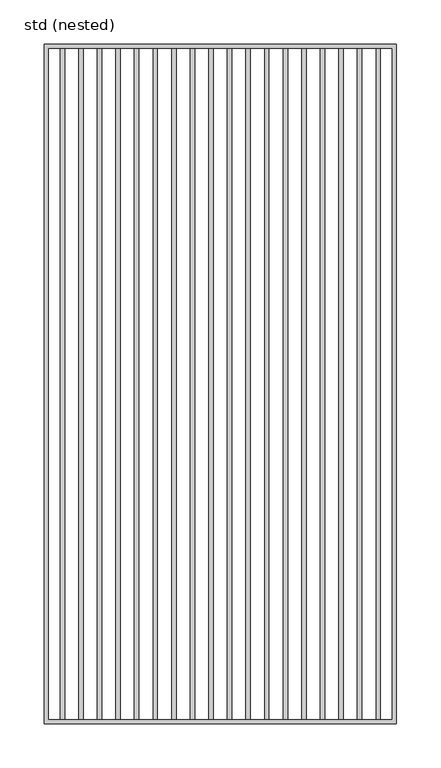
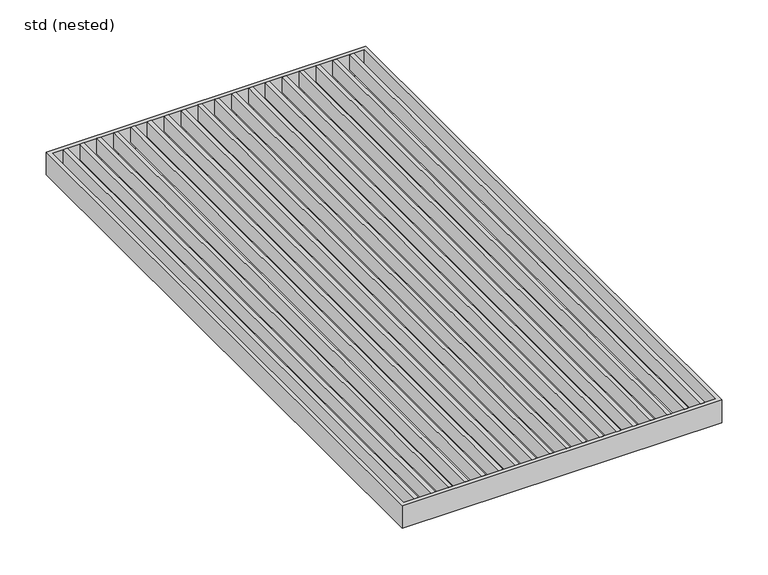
"""IFC4 building model written with IfcOpenShell, lengths in millimetres: sanitary terminal geometry, ZZZ_do not use_PF_ST_UN_grating for box channel_ACO : std (nested)."""

import ifcopenshell
import ifcopenshell.guid

model = None  # the IFC model being written
_history = None  # IfcOwnerHistory: only IFC2X3 demands one
_inside = {}  # id of a spatial element -> (the spatial element, [elements in it])
_under = {}  # id of a project, library or spatial element -> (it, [spatial elements below it])
_declared = {}  # id of a project -> (the project, [libraries it declares])
_typed = {}  # id of a type object -> (the type object, [elements of that type])
_made_of = {}  # id of a material, layer set ... -> (it, [elements and type objects made of it])


def new_model(schema):
    """Start an empty IFC model of exactly this schema.

    Asked for "IFC4X3", IfcOpenShell would pick the latest addendum, in which some entities
    have other attributes; the version numbers below select the first issue.
    IFC2X3 requires an IfcOwnerHistory on every rooted entity: one is made here for all.
    """
    global model, _history
    if schema == "IFC4X3":
        model = ifcopenshell.file(schema_version=(4, 3, 0, 0))
    else:
        model = ifcopenshell.file(schema=schema)
    _inside.clear()
    _under.clear()
    _declared.clear()
    _typed.clear()
    _made_of.clear()
    _history = None
    if model.schema == "IFC2X3":
        org = make("IfcOrganization", Name="unknown")
        user = make(
            "IfcPersonAndOrganization",
            ThePerson=make("IfcPerson", FamilyName="unknown"),
            TheOrganization=org,
        )
        app = make(
            "IfcApplication",
            ApplicationDeveloper=org,
            Version="unknown",
            ApplicationFullName="unknown",
            ApplicationIdentifier="unknown",
        )
        _history = make(
            "IfcOwnerHistory",
            OwningUser=user,
            OwningApplication=app,
            ChangeAction="ADDED",
            CreationDate=0,
        )
    return model


def make(cls, **values):
    """One entity of the class cls with the attributes given. An attribute that is None is left unset."""
    return model.create_entity(
        cls, **{name: value for name, value in values.items() if value is not None}
    )


def rooted(cls, **values):
    """An entity with a GlobalId (a new one), such as an element, a storey or a relation."""
    return make(cls, GlobalId=ifcopenshell.guid.new(), OwnerHistory=_history, **values)


def si_unit(unit_type, name, prefix=None):
    """IfcSIUnit, for example si_unit("LENGTHUNIT", "METRE", prefix="MILLI")."""
    return make("IfcSIUnit", UnitType=unit_type, Prefix=prefix, Name=name)


def assignment(units):
    """IfcUnitAssignment: the units of a project."""
    return None if units is None else make("IfcUnitAssignment", Units=units)


def point(xyz):
    """IfcCartesianPoint."""
    return None if xyz is None else make("IfcCartesianPoint", Coordinates=xyz)


def direction(xyz):
    """IfcDirection."""
    return None if xyz is None else make("IfcDirection", DirectionRatios=xyz)


def frame(location, z_axis=None, x_axis=None):
    """IfcAxis2Placement3D, a coordinate frame: its origin and axes. An axis left out is left unset."""
    return make(
        "IfcAxis2Placement3D",
        Location=point(location),
        Axis=direction(z_axis),
        RefDirection=direction(x_axis),
    )


def origin():
    """The frame at (0, 0, 0) with its axes left unset."""
    return frame((0.0, 0.0, 0.0))


def place(relative_to, where):
    """IfcLocalPlacement: puts the frame where relative to a parent placement (None: the world)."""
    return make(
        "IfcLocalPlacement", PlacementRelTo=relative_to, RelativePlacement=where
    )


def context(
    kind, dimensions, precision=None, world=None, true_north=None, identifier=None
):
    """IfcGeometricRepresentationContext, for example the 3D "Model" context."""
    return make(
        "IfcGeometricRepresentationContext",
        ContextIdentifier=identifier,
        ContextType=kind,
        CoordinateSpaceDimension=dimensions,
        Precision=precision,
        WorldCoordinateSystem=world,
        TrueNorth=true_north,
    )


def project(units=None, contexts=None):
    """IfcProject with its units and contexts."""
    return rooted(
        "IfcProject",
        Name="project",
        RepresentationContexts=contexts,
        UnitsInContext=assignment(units),
    )


def spatial(cls, under=None, at=None, **own):
    """A site, building, storey or space (cls), placed at a placement, below another one or the project."""
    s = rooted(cls, ObjectPlacement=at, **own)
    if under is not None:
        _under.setdefault(under.id(), (under, []))[1].append(s)
    return s


def polyline(points):
    """IfcPolyline through the points."""
    return make("IfcPolyline", Points=[point(p) for p in points])


def outline(outer, holes=None, kind="AREA"):
    """IfcArbitraryClosedProfileDef: a profile drawn as a closed curve; with holes, ...WithVoids."""
    if holes is None:
        return make("IfcArbitraryClosedProfileDef", ProfileType=kind, OuterCurve=outer)
    return make(
        "IfcArbitraryProfileDefWithVoids",
        ProfileType=kind,
        OuterCurve=outer,
        InnerCurves=holes,
    )


def extrude(swept, where, along, depth):
    """IfcExtrudedAreaSolid: the profile swept, set in the frame where, extruded along a direction by depth."""
    return make(
        "IfcExtrudedAreaSolid",
        SweptArea=swept,
        Position=where,
        ExtrudedDirection=direction(along),
        Depth=depth,
    )


def shape(context_of_items, identifier, shape_type, items):
    """IfcShapeRepresentation: the items that make up one representation, for example the "Body"."""
    return make(
        "IfcShapeRepresentation",
        ContextOfItems=context_of_items,
        RepresentationIdentifier=identifier,
        RepresentationType=shape_type,
        Items=items,
    )


def source(mapping_origin, context_of_items, identifier, shape_type, items):
    """IfcRepresentationMap: a shape defined once, which mapped items show again and again."""
    return make(
        "IfcRepresentationMap",
        MappingOrigin=mapping_origin,
        MappedRepresentation=shape(context_of_items, identifier, shape_type, items),
    )


def transform(
    local_origin,
    x_axis=None,
    y_axis=None,
    z_axis=None,
    scale=None,
    scale2=None,
    scale3=None,
    uniform=True,
):
    """IfcCartesianTransformationOperator3D, or its non-uniform kind. x_axis, y_axis, z_axis: its Axis1, 2, 3."""
    if uniform:
        return make(
            "IfcCartesianTransformationOperator3D",
            Axis1=direction(x_axis),
            Axis2=direction(y_axis),
            LocalOrigin=point(local_origin),
            Scale=scale,
            Axis3=direction(z_axis),
        )
    return make(
        "IfcCartesianTransformationOperator3DnonUniform",
        Axis1=direction(x_axis),
        Axis2=direction(y_axis),
        LocalOrigin=point(local_origin),
        Scale=scale,
        Axis3=direction(z_axis),
        Scale2=scale2,
        Scale3=scale3,
    )


def mapped(mapping_source, mapping_target):
    """IfcMappedItem: shows the shape of a source again, moved by a transform."""
    return make(
        "IfcMappedItem", MappingSource=mapping_source, MappingTarget=mapping_target
    )


def made_of(thing, what):
    """Note that an element or type object is made of a material, layer set ...; save() writes the relation."""
    if what is not None:
        _made_of.setdefault(what.id(), (what, []))[1].append(thing)
    return thing


def element(
    cls,
    number,
    at=None,
    inside=None,
    cuts=None,
    type_object=None,
    material=None,
    context=None,
    identifier="Body",
    shape_type=None,
    held_by="IfcProductDefinitionShape",
    body=None,
    shapes=None,
    **own,
):
    """One element of the class cls, such as IfcWall. Its Tag is "e" and its number.

    at: its placement. inside: the storey or other place that contains it. cuts: it is an
    opening in that element (IfcRelVoidsElement). A single representation is given by context,
    identifier, shape_type and body (its items); several are given by shapes. held_by: the class
    of the entity that holds the representations. save() writes the other relations.
    """
    e = rooted(cls, Tag="e%d" % number, ObjectPlacement=at, **own)
    if body is not None:
        shapes = [shape(context, identifier, shape_type, body)]
    if shapes is not None:
        e.Representation = make(held_by, Representations=shapes)
    if inside is not None:
        _inside.setdefault(inside.id(), (inside, []))[1].append(e)
    if cuts is not None:
        rooted(
            "IfcRelVoidsElement", RelatingBuildingElement=cuts, RelatedOpeningElement=e
        )
    if type_object is not None:
        _typed.setdefault(type_object.id(), (type_object, []))[1].append(e)
    return made_of(e, material)


def aggregate(whole, parts):
    """IfcRelAggregates: a whole, such as a stair, and the parts it consists of."""
    return rooted("IfcRelAggregates", RelatingObject=whole, RelatedObjects=parts)


def save(model, path):
    """Write the relations noted so far, then the file.

    IfcRelAggregates (storeys below a building ...), IfcRelContainedInSpatialStructure (elements
    in a storey), IfcRelDefinesByType, IfcRelAssociatesMaterial and IfcRelDeclares: one each for
    every whole, place, type object, material and project.
    """
    for whole, parts in _under.values():
        aggregate(whole, parts)
    for where, things in _inside.values():
        rooted(
            "IfcRelContainedInSpatialStructure",
            RelatedElements=things,
            RelatingStructure=where,
        )
    for kind, things in _typed.values():
        rooted("IfcRelDefinesByType", RelatedObjects=things, RelatingType=kind)
    for what, things in _made_of.values():
        rooted("IfcRelAssociatesMaterial", RelatedObjects=things, RelatingMaterial=what)
    for by, libraries in _declared.values():
        rooted("IfcRelDeclares", RelatingContext=by, RelatedDefinitions=libraries)
    model.write(path)


def std_nested_ce3d31c5(model_context):
    return source(origin(), model_context, "Body", "SweptSolid", [
        extrude(outline(polyline([(-181.0, 379.0), (-176.0, 379.0), (-176.0, -379.0), (-181.0, -379.0), (-181.0, 379.0)])), frame((0.0, 0.0, -20.0), z_axis=(0.0, 0.0, 1.0), x_axis=(1.0, 0.0, 0.0)), (0.0, 0.0, 1.0), 20.0),
        extrude(outline(polyline([(-160.0, 379.0), (-155.0, 379.0), (-155.0, -379.0), (-160.0, -379.0), (-160.0, 379.0)])), frame((0.0, 0.0, -20.0), z_axis=(0.0, 0.0, 1.0), x_axis=(1.0, 0.0, 0.0)), (0.0, 0.0, 1.0), 20.0),
        extrude(outline(polyline([(-139.0, 379.0), (-134.0, 379.0), (-134.0, -379.0), (-139.0, -379.0), (-139.0, 379.0)])), frame((0.0, 0.0, -20.0), z_axis=(0.0, 0.0, 1.0), x_axis=(1.0, 0.0, 0.0)), (0.0, 0.0, 1.0), 20.0),
        extrude(outline(polyline([(-118.0, 379.0), (-113.0, 379.0), (-113.0, -379.0), (-118.0, -379.0), (-118.0, 379.0)])), frame((0.0, 0.0, -20.0), z_axis=(0.0, 0.0, 1.0), x_axis=(1.0, 0.0, 0.0)), (0.0, 0.0, 1.0), 20.0),
        extrude(outline(polyline([(-97.0, 379.0), (-92.0, 379.0), (-92.0, -379.0), (-97.0, -379.0), (-97.0, 379.0)])), frame((0.0, 0.0, -20.0), z_axis=(0.0, 0.0, 1.0), x_axis=(1.0, 0.0, 0.0)), (0.0, 0.0, 1.0), 20.0),
        extrude(outline(polyline([(-76.0, 379.0), (-71.0, 379.0), (-71.0, -379.0), (-76.0, -379.0), (-76.0, 379.0)])), frame((0.0, 0.0, -20.0), z_axis=(0.0, 0.0, 1.0), x_axis=(1.0, 0.0, 0.0)), (0.0, 0.0, 1.0), 20.0),
        extrude(outline(polyline([(-55.0, 379.0), (-50.0, 379.0), (-50.0, -379.0), (-55.0, -379.0), (-55.0, 379.0)])), frame((0.0, 0.0, -20.0), z_axis=(0.0, 0.0, 1.0), x_axis=(1.0, 0.0, 0.0)), (0.0, 0.0, 1.0), 20.0),
        extrude(outline(polyline([(-34.0, 379.0), (-29.0, 379.0), (-29.0, -379.0), (-34.0, -379.0), (-34.0, 379.0)])), frame((0.0, 0.0, -20.0), z_axis=(0.0, 0.0, 1.0), x_axis=(1.0, 0.0, 0.0)), (0.0, 0.0, 1.0), 20.0),
        extrude(outline(polyline([(181.0, 379.0), (181.0, -379.0), (176.0, -379.0), (176.0, 379.0), (181.0, 379.0)])), frame((0.0, 0.0, -20.0), z_axis=(0.0, 0.0, 1.0), x_axis=(1.0, 0.0, 0.0)), (0.0, 0.0, 1.0), 20.0),
        extrude(outline(polyline([(160.0, 379.0), (160.0, -379.0), (155.0, -379.0), (155.0, 379.0), (160.0, 379.0)])), frame((0.0, 0.0, -20.0), z_axis=(0.0, 0.0, 1.0), x_axis=(1.0, 0.0, 0.0)), (0.0, 0.0, 1.0), 20.0),
        extrude(outline(polyline([(139.0, 379.0), (139.0, -379.0), (134.0, -379.0), (134.0, 379.0), (139.0, 379.0)])), frame((0.0, 0.0, -20.0), z_axis=(0.0, 0.0, 1.0), x_axis=(1.0, 0.0, 0.0)), (0.0, 0.0, 1.0), 20.0),
        extrude(outline(polyline([(118.0, 379.0), (118.0, -379.0), (113.0, -379.0), (113.0, 379.0), (118.0, 379.0)])), frame((0.0, 0.0, -20.0), z_axis=(0.0, 0.0, 1.0), x_axis=(1.0, 0.0, 0.0)), (0.0, 0.0, 1.0), 20.0),
        extrude(outline(polyline([(97.0, 379.0), (97.0, -379.0), (92.0, -379.0), (92.0, 379.0), (97.0, 379.0)])), frame((0.0, 0.0, -20.0), z_axis=(0.0, 0.0, 1.0), x_axis=(1.0, 0.0, 0.0)), (0.0, 0.0, 1.0), 20.0),
        extrude(outline(polyline([(76.0, 379.0), (76.0, -379.0), (71.0, -379.0), (71.0, 379.0), (76.0, 379.0)])), frame((0.0, 0.0, -20.0), z_axis=(0.0, 0.0, 1.0), x_axis=(1.0, 0.0, 0.0)), (0.0, 0.0, 1.0), 20.0),
        extrude(outline(polyline([(55.0, 379.0), (55.0, -379.0), (50.0, -379.0), (50.0, 379.0), (55.0, 379.0)])), frame((0.0, 0.0, -20.0), z_axis=(0.0, 0.0, 1.0), x_axis=(1.0, 0.0, 0.0)), (0.0, 0.0, 1.0), 20.0),
        extrude(outline(polyline([(34.0, 379.0), (34.0, -379.0), (29.0, -379.0), (29.0, 379.0), (34.0, 379.0)])), frame((0.0, 0.0, -20.0), z_axis=(0.0, 0.0, 1.0), x_axis=(1.0, 0.0, 0.0)), (0.0, 0.0, 1.0), 20.0),
        extrude(outline(polyline([(-13.0, 379.0), (-8.0, 379.0), (-8.0, -379.0), (-13.0, -379.0), (-13.0, 379.0)])), frame((0.0, 0.0, -20.0), z_axis=(0.0, 0.0, 1.0), x_axis=(1.0, 0.0, 0.0)), (0.0, 0.0, 1.0), 20.0),
        extrude(outline(polyline([(13.0, 379.0), (13.0, -379.0), (8.0, -379.0), (8.0, 379.0), (13.0, 379.0)])), frame((0.0, 0.0, -20.0), z_axis=(0.0, 0.0, 1.0), x_axis=(1.0, 0.0, 0.0)), (0.0, 0.0, 1.0), 20.0),
        extrude(outline(polyline([(199.0, 384.0), (199.0, -384.0), (-199.0, -384.0), (-199.0, 384.0), (199.0, 384.0)]), holes=[polyline([(194.0, 379.0), (-194.0, 379.0), (-194.0, -379.0), (194.0, -379.0), (194.0, 379.0)])]), frame((0.0, 0.0, -30.0), z_axis=(0.0, 0.0, 1.0), x_axis=(1.0, 0.0, 0.0)), (0.0, 0.0, 1.0), 30.0),
    ])


if __name__ == "__main__":
    model = new_model("IFC4")
    model_context = context("Model", 3, world=origin())
    ifc_project = project(units=[si_unit("LENGTHUNIT", "METRE", prefix="MILLI")], contexts=[model_context])
    site = spatial("IfcSite", under=ifc_project)
    building = spatial("IfcBuilding", under=site)
    placement = place(None, origin())
    std_nested_shape = std_nested_ce3d31c5(model_context)
    element("IfcSanitaryTerminal", 1, ObjectType="ZZZ_do not use_PF_ST_UN_grating for box channel_ACO : std (nested)", at=placement, inside=building, context=model_context, shape_type="MappedRepresentation", body=[
        mapped(std_nested_shape, transform((0.0, 0.0, 0.0), x_axis=(1.0, 0.0, 0.0), y_axis=(0.0, 1.0, 0.0), z_axis=(0.0, 0.0, 1.0))),
    ])
    save(model, "model.ifc")
